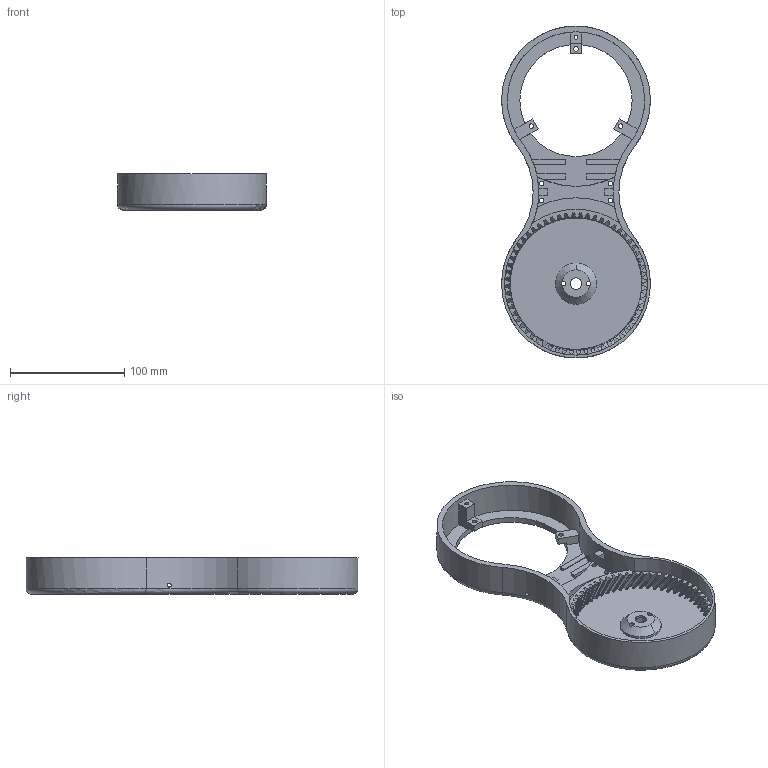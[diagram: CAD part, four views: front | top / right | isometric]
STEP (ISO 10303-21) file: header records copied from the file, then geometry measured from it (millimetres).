
FILE_DESCRIPTION((''),'2;1');
FILE_NAME('ART2BODYA_V-1','2022-08-24T09:20:43',('domen.bizjak'),('Audax d.o.o.'),'CREO PARAMETRIC BY PTC INC, 2021184','CREO PARAMETRIC BY PTC INC, 2021184','');
FILE_SCHEMA(('AP242_MANAGED_MODEL_BASED_3D_ENGINEERING_MIM_LF { 1 0 10303 442 1 1 4 }'));
Length unit declared in the file: millimetre
Products named in the file (1): ART2BODYA_V-1
Bounding box: 130 x 290 x 32 mm (x, y, z)
Volume: 194010.3 mm3; surface area: 103023.1 mm2
Topology: 1 solids, 1 shells, 617 faces, 1881 edges, 1287 vertices
Faces by surface type: bspline 480, plane 74, cylinder 57, torus 4, cone 2
Entity records: 34168 total; most frequent: CARTESIAN_POINT 15188, ORIENTED_EDGE 3672, PRESENTATION_STYLE_ASSIGNMENT 1889, STYLED_ITEM 1889, CURVE_STYLE 1883, EDGE_CURVE 1836, B_SPLINE_CURVE_WITH_KNOTS 1468, VERTEX_POINT 1227
